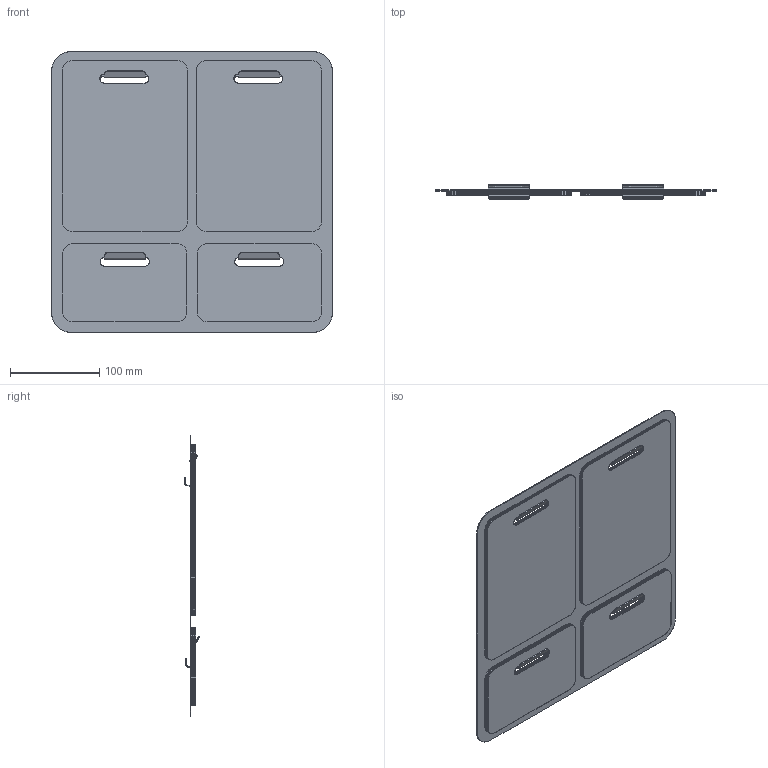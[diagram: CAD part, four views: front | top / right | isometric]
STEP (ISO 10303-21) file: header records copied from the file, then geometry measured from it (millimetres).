
FILE_DESCRIPTION(/* description */ (''),/* implementation_level */ '2;1');
FILE_NAME(/* name */ 'FORMOSA',/* time_stamp */ '2017-05-22T12:21:50+02:00',/* author */ (''),/* organization */ (''),/* preprocessor_version */ 'ST-DEVELOPER v10',/* originating_system */ '',/* authorisation */ '');
FILE_SCHEMA (('CONFIG_CONTROL_DESIGN'));
Length unit declared in the file: millimetre
Products named in the file (1): 1
Bounding box: 314 x 16.35 x 314 mm (x, y, z)
Volume: 327819.4 mm3; surface area: 1500144.7 mm2
Topology: 36 solids, 179 shells, 359 faces, 1244 edges, 1100 vertices
Faces by surface type: bspline 217, plane 142
Entity records: 15493 total; most frequent: CARTESIAN_POINT 9048, ORIENTED_EDGE 1654, EDGE_CURVE 1222, VERTEX_POINT 1078, EDGE_LOOP 439, B_SPLINE_CURVE_WITH_KNOTS 366, ADVANCED_FACE 359, FACE_OUTER_BOUND 359
